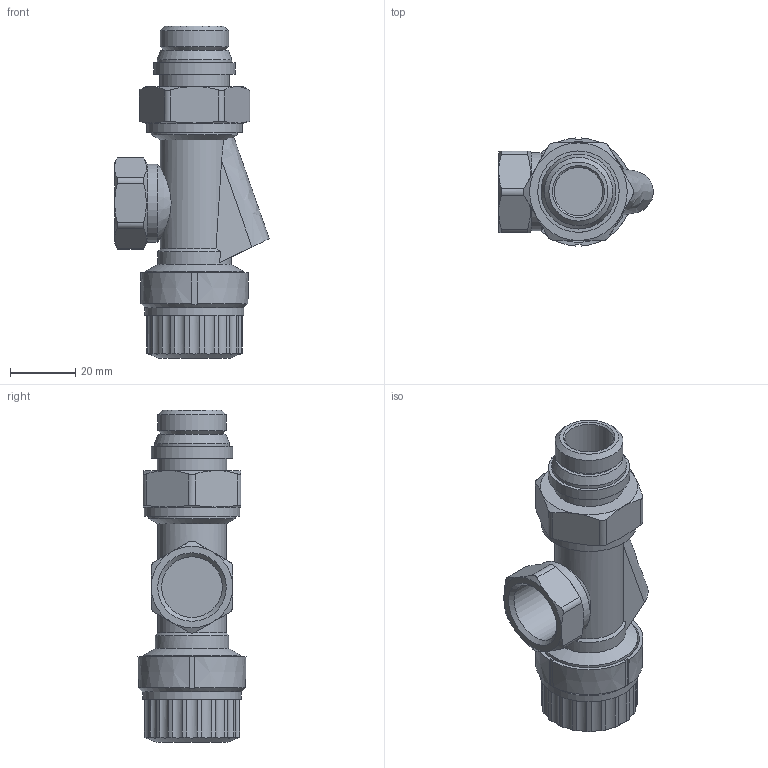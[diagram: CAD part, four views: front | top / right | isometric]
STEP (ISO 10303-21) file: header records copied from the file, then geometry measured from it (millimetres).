
FILE_DESCRIPTION(('STEP AP203'), '1');
FILE_NAME('VT.179.NRC.04', '2026-03-04T08:56:02', ('VerevichevVA'), ('Vesta'), 'C3D Converter', 'C3D Toolkit', '');
FILE_SCHEMA(('CONFIG_CONTROL_DESIGN'));
Length unit declared in the file: millimetre
Products named in the file (1): ВР.493176.035.000  СБ
Bounding box: 47.5 x 33.19 x 102.01 mm (x, y, z)
Volume: 56011.9 mm3; surface area: 14637.9 mm2
Topology: 1 solids, 5 shells, 180 faces, 452 edges, 294 vertices
Faces by surface type: cylinder 78, plane 66, cone 31, bspline 5
Full cylindrical faces by diameter (mm): 14.9 x1, 18.632 x1, 20.955 x1, 21.3 x1, 22.1 x1, 22.6 x1, 23 x1, 24 x1, 25 x1, 26.441 x1, 29.4 x1, 30 x1, 30.4 x1
Entity records: 9536 total; most frequent: CARTESIAN_POINT 5480, ORIENTED_EDGE 849, DIRECTION 764, EDGE_CURVE 425, AXIS2_PLACEMENT_3D 301, VERTEX_POINT 294, EDGE_LOOP 220, FACE_BOUND 182
